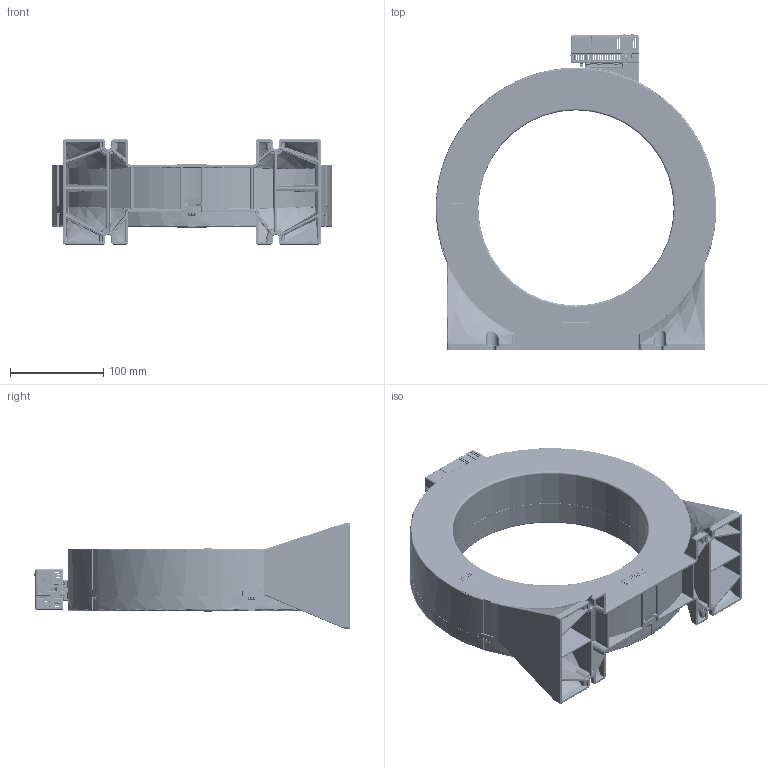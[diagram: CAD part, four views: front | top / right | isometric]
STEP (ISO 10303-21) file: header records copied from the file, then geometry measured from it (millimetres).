
FILE_DESCRIPTION (( 'STEP AP214' ), '1' );
FILE_NAME ('CTUB10x-CTBC210x.STEP', '2019-04-12T06:42:53', ( 'Administrator' ), ( '' ), 'SwSTEP 2.0', 'SolidWorks 2019', '' );
FILE_SCHEMA (( 'AUTOMOTIVE_DESIGN' ));
Length unit declared in the file: millimetre
Products named in the file (1): CTUB10x-CTBC210x
Bounding box: 301.8 x 340.7 x 113 mm (x, y, z)
Volume: 717349.6 mm3; surface area: 528213.3 mm2
Topology: 7 solids, 11 shells, 10040 faces, 24816 edges, 14612 vertices
Faces by surface type: bspline 2826, cylinder 2792, plane 2536, torus 1045, cone 449, sphere 392
Entity records: 479534 total; most frequent: CARTESIAN_POINT 154311, ORIENTED_EDGE 48816, DIRECTION 40045, EDGE_CURVE 24408, AXIS2_PLACEMENT_3D 14887, VERTEX_POINT 14595, EDGE_LOOP 10519, LINE 10271
